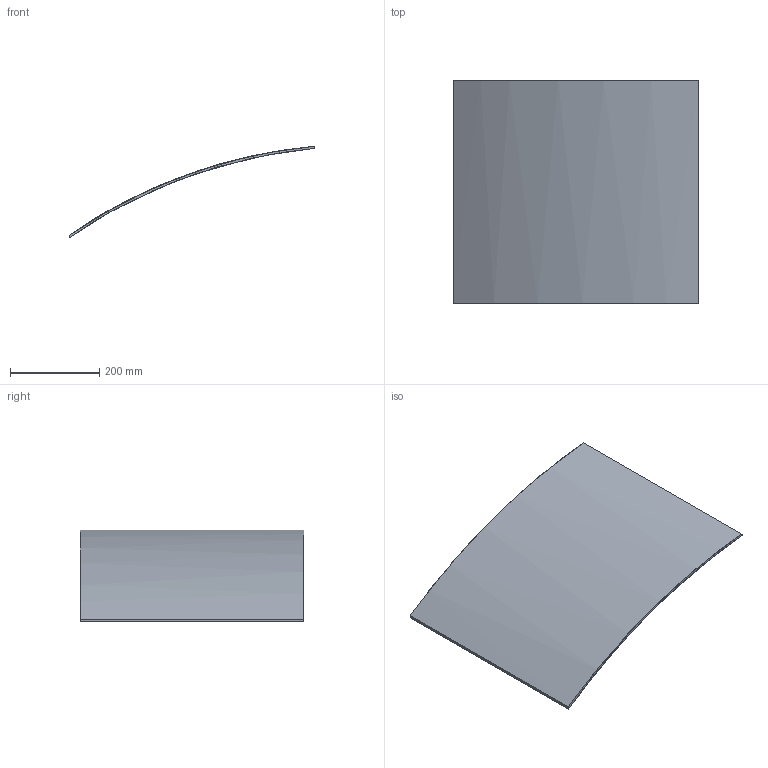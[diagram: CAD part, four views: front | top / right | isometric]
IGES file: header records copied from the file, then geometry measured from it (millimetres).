
Start section: Comment
Global section: file name: sphere_mirror_posx_posy.iges; native system:  By UGS Corp.; preprocessor: XPlus GENERIC/IGES 3.0; author: Author; organization: Title; date: 20090504.151515; units: millimetre
Bounding box: 550.01 x 500 x 204.99 mm (x, y, z)
Surface area: 602985.5 mm2 (no closed solid volume)
Topology: 0 solids, 0 shells, 6 faces, 24 edges, 24 vertices
Faces by surface type: bspline 6
